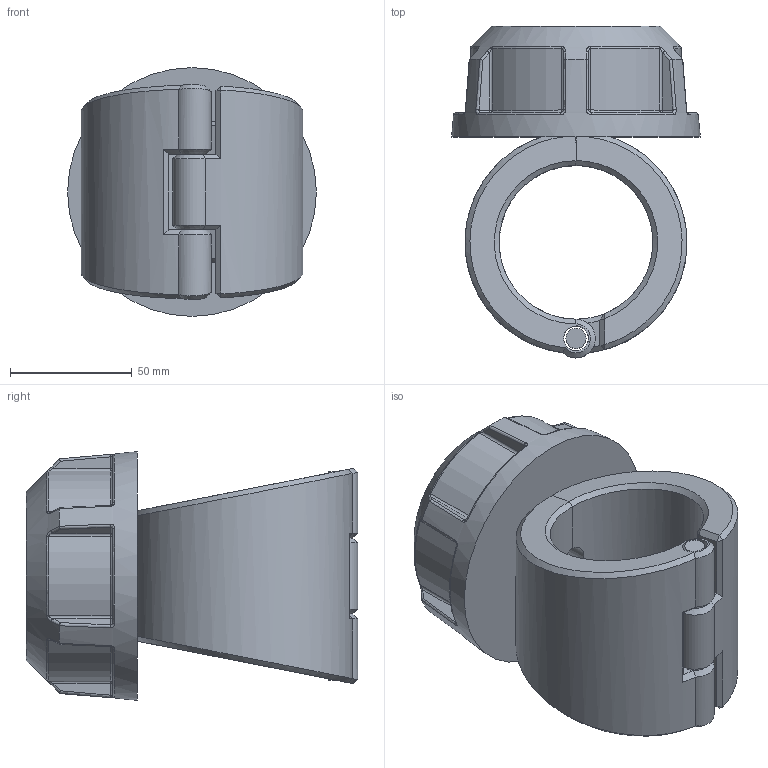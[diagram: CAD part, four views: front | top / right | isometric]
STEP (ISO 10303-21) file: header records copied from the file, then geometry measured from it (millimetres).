
FILE_DESCRIPTION(/* description */ ('Plassadle Threaded 63x3/4'''''),/* implementation_level */ '2;1');
FILE_NAME(/* name */ 'C:\Users\comp2\Dropbox\99-16-3568-Processing\Mechanical Fittings\16300\stp\163000063007.stp',/* time_stamp */ '2022-02-03T11:46:35+00:00',/* author */ ('comp2'),/* organization */ (''),/* preprocessor_version */ 'ST-DEVELOPER v17.2',/* originating_system */ 'Autodesk Inventor 2019',/* authorisation */ '');
FILE_SCHEMA (('AUTOMOTIVE_DESIGN { 1 0 10303 214 3 1 1 }'));
Length unit declared in the file: millimetre
Products named in the file (1): 163000063007
Bounding box: 102 x 136 x 102 mm (x, y, z)
Volume: 498652.1 mm3; surface area: 78741.9 mm2
Topology: 4 solids, 4 shells, 203 faces, 486 edges, 293 vertices
Faces by surface type: bspline 58, plane 53, cylinder 47, torus 18, cone 15, sphere 12
Full cylindrical faces by diameter (mm): 8.22 x1, 10.22 x3, 12.059 x1, 20.499 x1, 24.117 x1, 36.175 x1
Entity records: 8215 total; most frequent: CARTESIAN_POINT 3868, ORIENTED_EDGE 972, DIRECTION 781, EDGE_CURVE 486, AXIS2_PLACEMENT_3D 330, VERTEX_POINT 293, EDGE_LOOP 213, FACE_OUTER_BOUND 203
